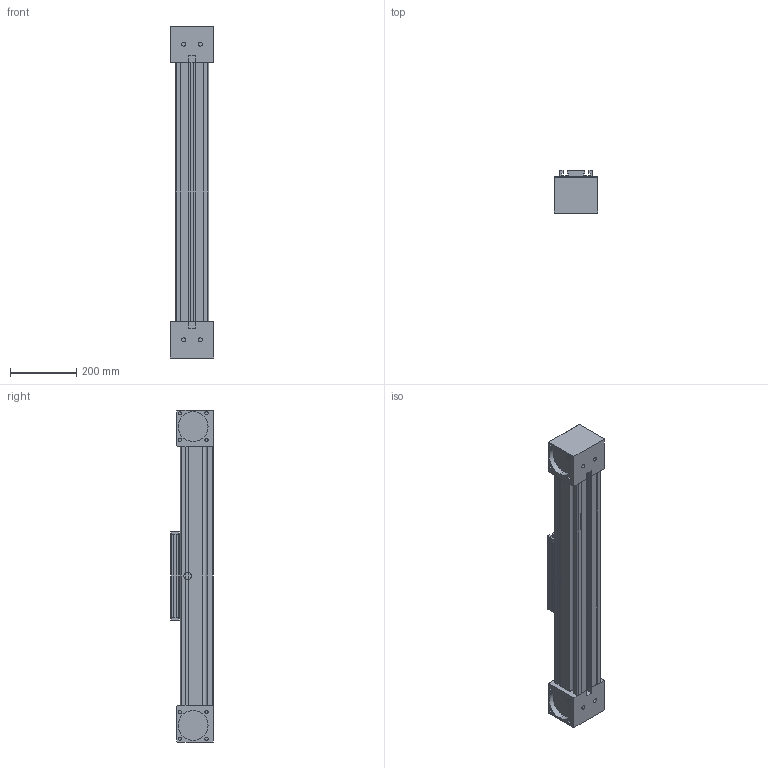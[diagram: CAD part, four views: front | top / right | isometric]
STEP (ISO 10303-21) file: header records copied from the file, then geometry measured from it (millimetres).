
FILE_DESCRIPTION (( 'STEP AP214' ), '1' );
FILE_NAME ('QSRZ100.STEP', '2021-09-30T06:35:38', ( '' ), ( '' ), 'SwSTEP 2.0', 'SolidWorks 2020', '' );
FILE_SCHEMA (( 'AUTOMOTIVE_DESIGN' ));
Length unit declared in the file: millimetre
Products named in the file (4): carriage^QSRZ100_carriage version 0; QSRZ100; timing belt reverse unit^QSRZ100_without; profile^QSRZ100
Assembly tree (4 placements, depth 2):
  QSRZ100
    profile^QSRZ100
    carriage^QSRZ100_carriage version 0
    timing belt reverse unit^QSRZ100_without  x2
Bounding box: 130 x 129 x 1000 mm (x, y, z)
Volume: 8389471.4 mm3; surface area: 829114.4 mm2
Topology: 8 solids, 8 shells, 281 faces, 707 edges, 466 vertices
Faces by surface type: plane 188, cylinder 85, torus 8
Entity records: 7323 total; most frequent: CARTESIAN_POINT 1243, DIRECTION 1215, ORIENTED_EDGE 1210, EDGE_CURVE 605, LINE 475, VECTOR 475, VERTEX_POINT 398, AXIS2_PLACEMENT_3D 370
